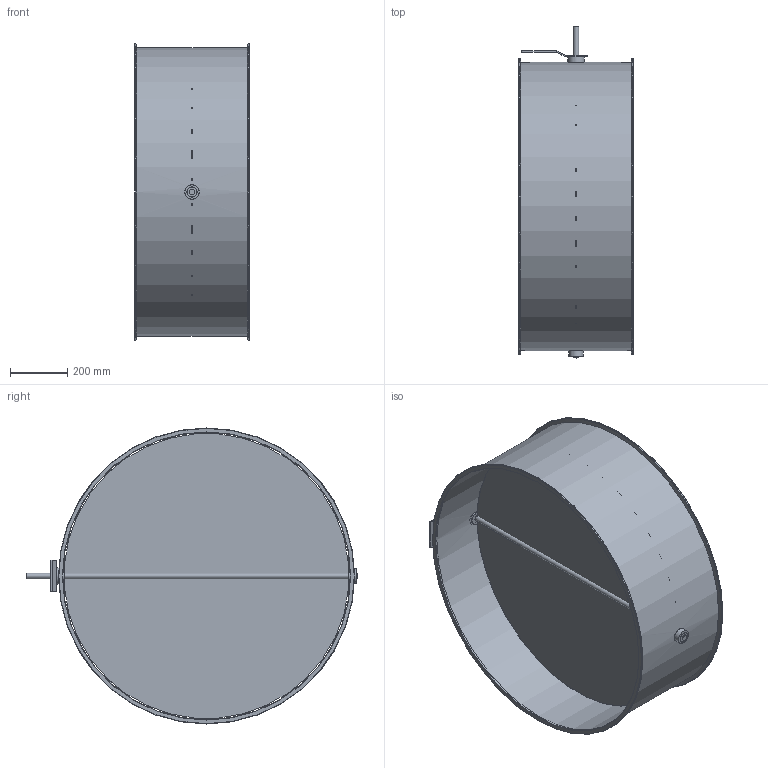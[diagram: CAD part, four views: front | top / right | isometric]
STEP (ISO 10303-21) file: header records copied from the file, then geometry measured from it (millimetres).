
FILE_DESCRIPTION(/* description */ (''),/* implementation_level */ '2;1');
FILE_NAME(/* name */ 'EA117-80B__1000_L400_Belimo_Typen_NF_SF.stp',/* time_stamp */ '2017-12-06T17:34:25+01:00',/* author */ (''),/* organization */ (''),/* preprocessor_version */ 'ST-DEVELOPER v11',/* originating_system */ 'SIEMENS UGS NX 6.0',/* authorisation */ '');
FILE_SCHEMA (('CONFIG_CONTROL_DESIGN'));
Length unit declared in the file: millimetre
Products named in the file (1): gars18E2j2tj
Bounding box: 400 x 1155 x 1030 mm (x, y, z)
Volume: 3627943.8 mm3; surface area: 4386473.7 mm2
Topology: 8 solids, 8 shells, 79 faces, 167 edges, 106 vertices
Faces by surface type: plane 36, cylinder 35, torus 6, cone 2
Full cylindrical faces by diameter (mm): 8.1 x7, 20 x3, 35 x3, 35.85 x2, 36 x2, 49 x1, 50 x2, 59 x1, 1000 x1, 1002.4 x1, 1030 x2
Entity records: 2094 total; most frequent: CARTESIAN_POINT 400, DIRECTION 352, ORIENTED_EDGE 248, AXIS2_PLACEMENT_3D 152, EDGE_LOOP 144, EDGE_CURVE 124, FACE_BOUND 114, VERTEX_POINT 96
